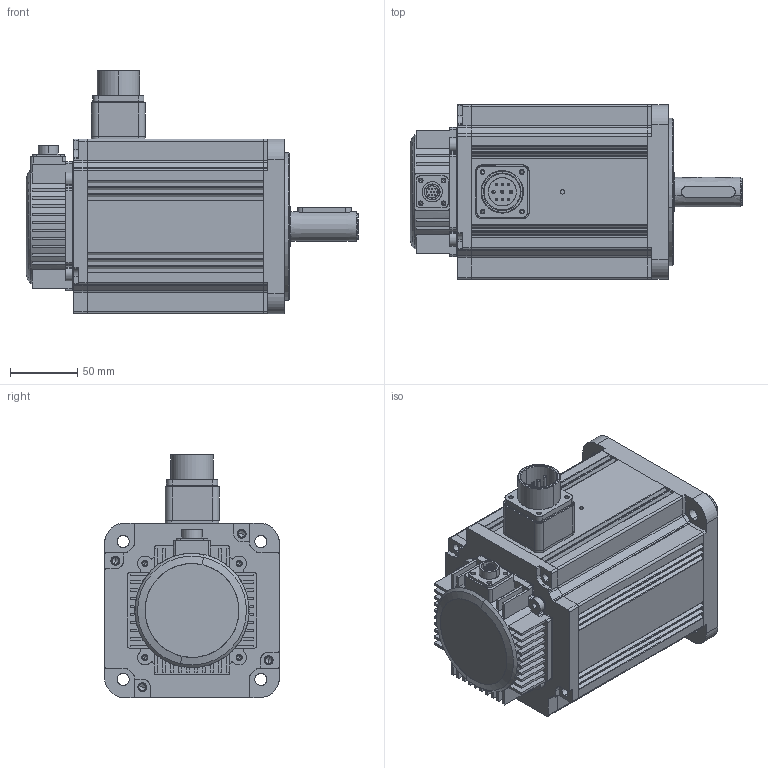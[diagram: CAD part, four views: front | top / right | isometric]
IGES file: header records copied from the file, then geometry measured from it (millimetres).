
Start section: SolidWorks IGES file using analytic representation for surfaces
Global section: file name: Z:\Products\Servo\Servo Motor\EMG-20-B22\UMM-0020EA-B2 UMM-0020CA-B2_(02).IGS; native system: SolidWorks 2020; preprocessor: SolidWorks 2020; author: LaorB; date: 211229.180836; units: millimetre
Bounding box: 247 x 130 x 181.3 mm (x, y, z)
Surface area: 375335.3 mm2 (no closed solid volume)
Topology: 0 solids, 0 shells, 1454 faces, 22423 edges, 22311 vertices
Faces by surface type: revolution 781, bspline 673
